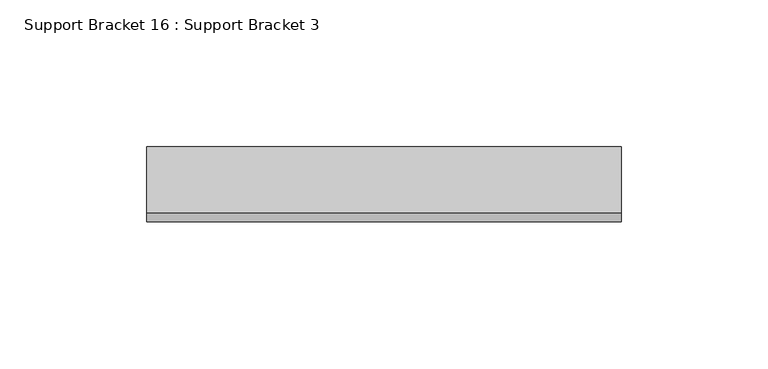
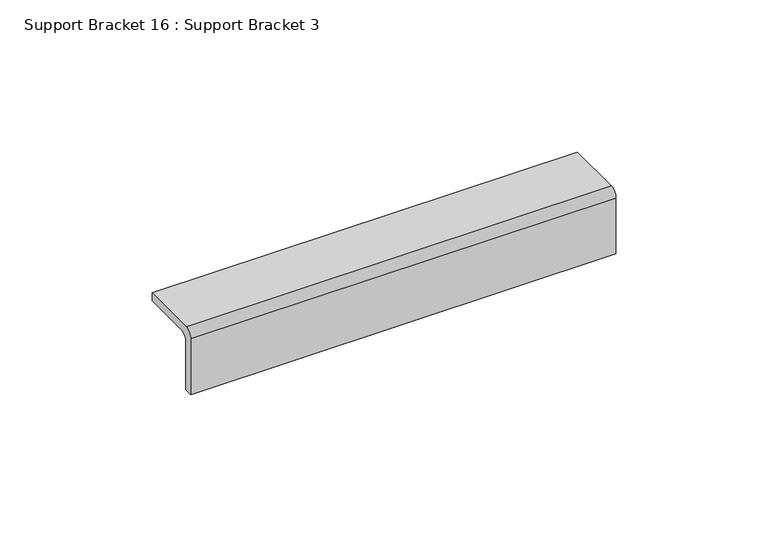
"""IFC4 building model written with IfcOpenShell, lengths in millimetres: proxy geometry, Support Bracket 16 : Support Bracket 3."""

from ifc_helpers import new_model, si_unit, point, frame, frame_2d, origin, place, context, project, spatial, polyline, circle_curve, trimmed, segment, composite_curve, outline, extrude, source, transform, mapped, element, save


def support_bracket_16_support_bracket_3_4fd1d1bb(model_context):
    return source(origin(), model_context, "Body", "SweptSolid", [
        extrude(outline(composite_curve([segment(polyline([(1072.7906018, 1157.2449176), (1095.1426018, 1157.2449176), (1095.1426018, 1154.0699176), (1075.9656018, 1154.0699176)]), True, "CONTINUOUS"), segment(trimmed(circle_curve(frame_2d((1075.9656018, 1151.0219176)), 3.048), [point((1075.9656018, 1154.0699176))], [point((1072.9176018, 1151.0219176))], True, "CARTESIAN"), True, "CONTINUOUS"), segment(polyline([(1072.9176018, 1151.0219176), (1072.9176018, 1131.8449176), (1069.7426018, 1131.8449176), (1069.7426018, 1154.1969176)]), True, "CONTINUOUS"), segment(trimmed(circle_curve(frame_2d((1072.7906018, 1154.1969176)), 3.048), [point((1069.7426018, 1154.1969176))], [point((1072.7906018, 1157.2449176))], False, "CARTESIAN"), True, "CONTINUOUS")], self_intersect=False)), frame((11627.0040465, 0.0, 0.0), z_axis=(1.0, 0.0, 0.0), x_axis=(0.0, 1.0, 0.0)), (0.0, 0.0, 1.0), 161.3296875),
    ])


if __name__ == "__main__":
    model = new_model("IFC4")
    model_context = context("Model", 3, world=origin())
    ifc_project = project(units=[si_unit("LENGTHUNIT", "METRE", prefix="MILLI")], contexts=[model_context])
    site = spatial("IfcSite", under=ifc_project)
    building = spatial("IfcBuilding", under=site)
    placement = place(None, origin())
    support_bracket_16_support_bracket_3_shape = support_bracket_16_support_bracket_3_4fd1d1bb(model_context)
    element("IfcBuildingElementProxy", 1, Name="Support Bracket 16 : Support Bracket 3", ObjectType="Support Bracket 16 : Support Bracket 3", at=placement, inside=building, context=model_context, shape_type="MappedRepresentation", body=[
        mapped(support_bracket_16_support_bracket_3_shape, transform((0.0, 0.0, 0.0), x_axis=(1.0, 0.0, 0.0), y_axis=(0.0, 1.0, 0.0), z_axis=(0.0, 0.0, 1.0))),
    ])
    save(model, "model.ifc")
